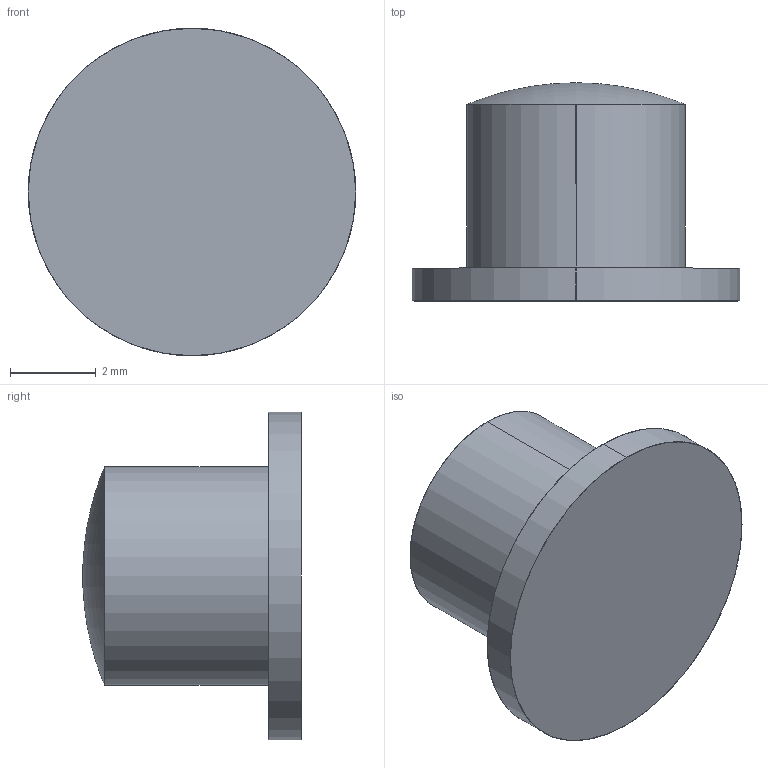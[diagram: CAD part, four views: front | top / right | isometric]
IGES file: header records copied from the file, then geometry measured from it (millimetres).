
Start section: SolidWorks IGES file using analytic representation for surfaces
Global section: file name: C:\Users\ALIENWARE\Documents\PowerBank\Button.IGS; native system: SolidWorks 2014; preprocessor: SolidWorks 2014; author: ALIENWARE; date: 150203.114427; units: inch
Bounding box: 7.62 x 5.08 x 7.62 mm (x, y, z)
Surface area: 171.1 mm2 (no closed solid volume)
Topology: 0 solids, 0 shells, 7 faces, 144 edges, 144 vertices
Faces by surface type: revolution 5, bspline 2
